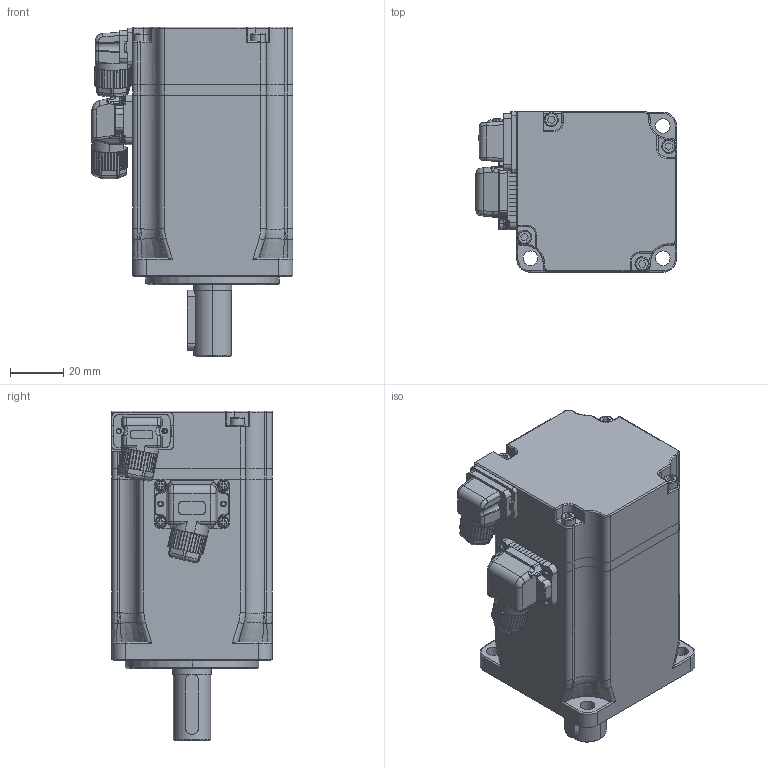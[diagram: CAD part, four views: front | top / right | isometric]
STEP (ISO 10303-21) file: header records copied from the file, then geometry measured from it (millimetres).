
FILE_DESCRIPTION (( 'STEP AP214' ), '1' );
FILE_NAME ('×°ÅäÌå4.STEP', '2023-11-03T10:44:23', ( 'muse' ), ( 'muse' ), 'SwSTEP 2.0', 'SolidWorks 2020', '' );
FILE_SCHEMA (( 'AUTOMOTIVE_DESIGN' ));
Length unit declared in the file: millimetre
Products named in the file (11): 60綴欶; 60粣扥1.stp; 伺服电机动力焊线底座4+2P小型斜口带线带刹车线(1).stp; JM30伺服电机编码器插头7P-小型斜口-散装(不含端子).stp; 儂旯蹟佪.stp; 60綴傷裔; JM30伺服电机编码器焊线式底座7P小型斜口不带线(1).stp; JM30伺服电机动力插头4+2P-小型斜口-散装(不含端子).stp; 蚾饜极4; 60-400W儂旯; 60す瑩.stp
Assembly tree (13 placements, depth 2):
  蚾饜极4
    60-400W儂旯
    60綴傷裔
    60綴欶
    60す瑩.stp
    60粣扥1.stp
    儂旯蹟佪.stp  x4
    JM30伺服电机编码器插头7P-小型斜口-散装(不含端子).stp
    JM30伺服电机编码器焊线式底座7P小型斜口不带线(1).stp
    JM30伺服电机动力插头4+2P-小型斜口-散装(不含端子).stp
    伺服电机动力焊线底座4+2P小型斜口带线带刹车线(1).stp
Bounding box: 75.47 x 60 x 123.5 mm (x, y, z)
Volume: 310690.9 mm3; surface area: 60130.4 mm2
Topology: 13 solids, 30 shells, 3634 faces, 9547 edges, 6057 vertices
Faces by surface type: plane 1969, cylinder 996, cone 311, torus 177, bspline 174, sphere 7
Entity records: 129667 total; most frequent: CARTESIAN_POINT 43324, ORIENTED_EDGE 18758, DIRECTION 16721, EDGE_CURVE 9379, VERTEX_POINT 5981, VECTOR 5721, LINE 5721, AXIS2_PLACEMENT_3D 5500
